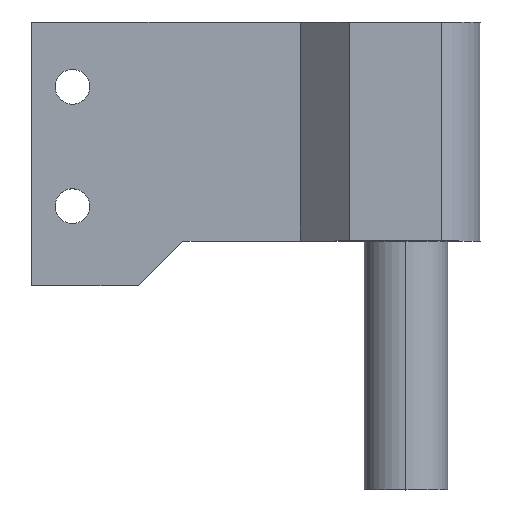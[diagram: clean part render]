
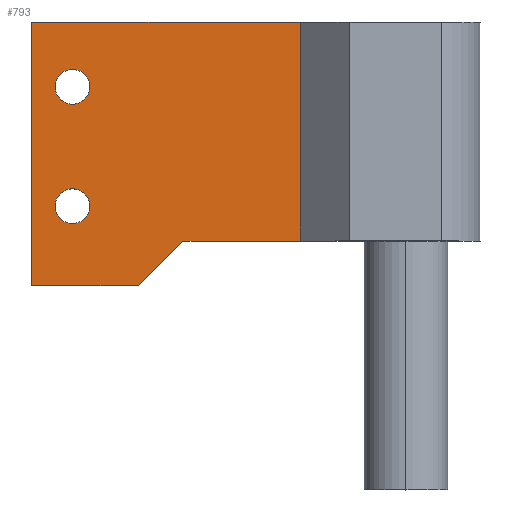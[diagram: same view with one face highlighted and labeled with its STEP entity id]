
A CAD part, top view. The second image highlights one B-rep face of the part: STEP entity #793.
In plain terms, the highlighted planar face has unit normal (0, 0, 1).
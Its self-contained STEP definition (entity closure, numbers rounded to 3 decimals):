
#17 = AXIS2_PLACEMENT_3D ( 'NONE', #327, #248, #978 ) ;
#19 = AXIS2_PLACEMENT_3D ( 'NONE', #94, #232, #310 ) ;
#21 = VERTEX_POINT ( 'NONE', #879 ) ;
#29 = EDGE_CURVE ( 'NONE', #821, #518, #568, .T. ) ;
#57 = EDGE_CURVE ( 'NONE', #821, #710, #290, .T. ) ;
#73 = CARTESIAN_POINT ( 'NONE',  ( -37.6, 22., 1.7 ) ) ;
#90 = ORIENTED_EDGE ( 'NONE', *, *, #373, .F. ) ;
#94 = CARTESIAN_POINT ( 'NONE',  ( -33.5, 3.5, 1.7 ) ) ;
#103 = CARTESIAN_POINT ( 'NONE',  ( -26.9, -4.5, 1.7 ) ) ;
#115 = CARTESIAN_POINT ( 'NONE',  ( -26.9, -4.5, 1.7 ) ) ;
#132 = EDGE_CURVE ( 'NONE', #336, #21, #212, .T. ) ;
#139 = FACE_BOUND ( 'NONE', #808, .T. ) ;
#141 = LINE ( 'NONE', #736, #915 ) ;
#145 = CARTESIAN_POINT ( 'NONE',  ( -37.6, -4.5, 1.7 ) ) ;
#162 = CIRCLE ( 'NONE', #17, 1.75 ) ;
#165 = EDGE_LOOP ( 'NONE', ( #744, #523 ) ) ;
#177 = AXIS2_PLACEMENT_3D ( 'NONE', #403, #190, #776 ) ;
#190 = DIRECTION ( 'NONE',  ( 0., 0., 1. ) ) ;
#195 = VERTEX_POINT ( 'NONE', #440 ) ;
#212 = CIRCLE ( 'NONE', #19, 1.75 ) ;
#220 = PLANE ( 'NONE',  #297 ) ;
#231 = EDGE_CURVE ( 'NONE', #876, #330, #559, .T. ) ;
#232 = DIRECTION ( 'NONE',  ( 0., 0., 1. ) ) ;
#244 = EDGE_CURVE ( 'NONE', #21, #336, #755, .T. ) ;
#248 = DIRECTION ( 'NONE',  ( 0., 0., 1. ) ) ;
#258 = VECTOR ( 'NONE', #959, 1000. ) ;
#264 = CARTESIAN_POINT ( 'NONE',  ( -10.6, 22., 1.7 ) ) ;
#273 = ORIENTED_EDGE ( 'NONE', *, *, #571, .F. ) ;
#281 = CARTESIAN_POINT ( 'NONE',  ( -37.6, 22., 1.7 ) ) ;
#290 = LINE ( 'NONE', #731, #258 ) ;
#297 = AXIS2_PLACEMENT_3D ( 'NONE', #73, #969, #809 ) ;
#310 = DIRECTION ( 'NONE',  ( -1., 0., 0. ) ) ;
#327 = CARTESIAN_POINT ( 'NONE',  ( -33.5, 15.5, 1.7 ) ) ;
#330 = VERTEX_POINT ( 'NONE', #547 ) ;
#336 = VERTEX_POINT ( 'NONE', #473 ) ;
#356 = EDGE_CURVE ( 'NONE', #195, #719, #860, .T. ) ;
#361 = VERTEX_POINT ( 'NONE', #115 ) ;
#369 = FACE_BOUND ( 'NONE', #165, .T. ) ;
#373 = EDGE_CURVE ( 'NONE', #518, #719, #141, .T. ) ;
#403 = CARTESIAN_POINT ( 'NONE',  ( -33.5, 3.5, 1.7 ) ) ;
#407 = ORIENTED_EDGE ( 'NONE', *, *, #356, .T. ) ;
#416 = CARTESIAN_POINT ( 'NONE',  ( -33.5, 15.5, 1.7 ) ) ;
#425 = EDGE_CURVE ( 'NONE', #330, #876, #162, .T. ) ;
#427 = CARTESIAN_POINT ( 'NONE',  ( -10.6, 0., 1.7 ) ) ;
#430 = FACE_OUTER_BOUND ( 'NONE', #780, .T. ) ;
#435 = CARTESIAN_POINT ( 'NONE',  ( -37.6, 22., 1.7 ) ) ;
#440 = CARTESIAN_POINT ( 'NONE',  ( -22.4, 0., 1.7 ) ) ;
#467 = VECTOR ( 'NONE', #492, 1000. ) ;
#473 = CARTESIAN_POINT ( 'NONE',  ( -31.75, 3.5, 1.7 ) ) ;
#477 = CARTESIAN_POINT ( 'NONE',  ( -37.6, 0., 1.7 ) ) ;
#492 = DIRECTION ( 'NONE',  ( 1., 0., 0. ) ) ;
#497 = VECTOR ( 'NONE', #828, 1000. ) ;
#518 = VERTEX_POINT ( 'NONE', #264 ) ;
#523 = ORIENTED_EDGE ( 'NONE', *, *, #132, .F. ) ;
#531 = CARTESIAN_POINT ( 'NONE',  ( -35.25, 15.5, 1.7 ) ) ;
#547 = CARTESIAN_POINT ( 'NONE',  ( -31.75, 15.5, 1.7 ) ) ;
#559 = CIRCLE ( 'NONE', #884, 1.75 ) ;
#568 = LINE ( 'NONE', #435, #467 ) ;
#571 = EDGE_CURVE ( 'NONE', #361, #710, #816, .T. ) ;
#591 = ORIENTED_EDGE ( 'NONE', *, *, #57, .T. ) ;
#602 = VECTOR ( 'NONE', #784, 1000. ) ;
#604 = VECTOR ( 'NONE', #899, 1000. ) ;
#613 = DIRECTION ( 'NONE',  ( 0., -1., 0. ) ) ;
#614 = EDGE_CURVE ( 'NONE', #361, #195, #772, .T. ) ;
#628 = ORIENTED_EDGE ( 'NONE', *, *, #614, .T. ) ;
#631 = DIRECTION ( 'NONE',  ( -1., 0., 0. ) ) ;
#661 = ORIENTED_EDGE ( 'NONE', *, *, #231, .F. ) ;
#663 = ORIENTED_EDGE ( 'NONE', *, *, #29, .F. ) ;
#698 = ORIENTED_EDGE ( 'NONE', *, *, #425, .F. ) ;
#710 = VERTEX_POINT ( 'NONE', #875 ) ;
#719 = VERTEX_POINT ( 'NONE', #427 ) ;
#731 = CARTESIAN_POINT ( 'NONE',  ( -37.6, 22., 1.7 ) ) ;
#736 = CARTESIAN_POINT ( 'NONE',  ( -10.6, 22., 1.7 ) ) ;
#744 = ORIENTED_EDGE ( 'NONE', *, *, #244, .F. ) ;
#755 = CIRCLE ( 'NONE', #177, 1.75 ) ;
#772 = LINE ( 'NONE', #103, #497 ) ;
#776 = DIRECTION ( 'NONE',  ( -1., 0., 0. ) ) ;
#780 = EDGE_LOOP ( 'NONE', ( #628, #407, #90, #663, #591, #273 ) ) ;
#784 = DIRECTION ( 'NONE',  ( 1., 0., 0. ) ) ;
#793 = ADVANCED_FACE ( 'NONE', ( #430, #139, #369 ), #220, .F. ) ;
#808 = EDGE_LOOP ( 'NONE', ( #661, #698 ) ) ;
#809 = DIRECTION ( 'NONE',  ( -1., 0., 0. ) ) ;
#816 = LINE ( 'NONE', #145, #604 ) ;
#821 = VERTEX_POINT ( 'NONE', #281 ) ;
#828 = DIRECTION ( 'NONE',  ( 0.707, 0.707, 0. ) ) ;
#860 = LINE ( 'NONE', #477, #602 ) ;
#875 = CARTESIAN_POINT ( 'NONE',  ( -37.6, -4.5, 1.7 ) ) ;
#876 = VERTEX_POINT ( 'NONE', #531 ) ;
#879 = CARTESIAN_POINT ( 'NONE',  ( -35.25, 3.5, 1.7 ) ) ;
#884 = AXIS2_PLACEMENT_3D ( 'NONE', #416, #933, #631 ) ;
#899 = DIRECTION ( 'NONE',  ( -1., 0., 0. ) ) ;
#915 = VECTOR ( 'NONE', #613, 1000. ) ;
#933 = DIRECTION ( 'NONE',  ( 0., 0., 1. ) ) ;
#959 = DIRECTION ( 'NONE',  ( 0., -1., 0. ) ) ;
#969 = DIRECTION ( 'NONE',  ( 0., 0., -1. ) ) ;
#978 = DIRECTION ( 'NONE',  ( -1., 0., 0. ) ) ;
